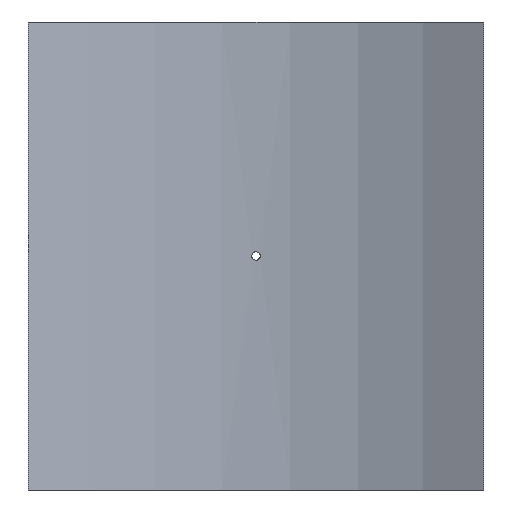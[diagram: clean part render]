
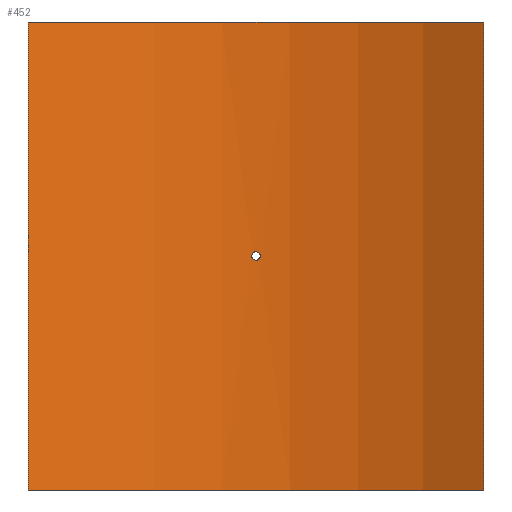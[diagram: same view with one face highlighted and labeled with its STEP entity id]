
A CAD part, front view. The second image highlights one B-rep face of the part: STEP entity #452.
In plain terms, the highlighted cylindrical face has radius 500 mm (diameter 1000 mm), a partial arc.
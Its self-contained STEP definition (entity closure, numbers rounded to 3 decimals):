
#19=B_SPLINE_CURVE_WITH_KNOTS('',3,(#788,#789,#790,#791,#792,#793,#794,
#795,#796,#797,#798,#799,#800,#801,#802,#803,#804,#805,#806,#807,#808,#809,
#810,#811,#812,#813,#814,#815,#816,#817,#818,#819,#820,#821),
 .UNSPECIFIED.,.T.,.F.,(4,2,2,2,2,2,2,2,2,2,2,2,2,2,2,2,4),(0.,0.181,
0.362,0.542,0.723,0.904,
1.085,1.266,1.446,1.627,1.808,
1.989,2.17,2.351,2.531,2.712,
2.893),.UNSPECIFIED.);
#43=LINE('',#1065,#62);
#44=LINE('',#1068,#63);
#62=VECTOR('',#661,10.);
#63=VECTOR('',#664,10.);
#76=CYLINDRICAL_SURFACE('',#530,500.);
#88=FACE_BOUND('',#167,.T.);
#127=FACE_OUTER_BOUND('',#166,.T.);
#166=EDGE_LOOP('',(#405,#406,#407,#408));
#167=EDGE_LOOP('',(#409));
#201=CIRCLE('',#529,500.);
#202=CIRCLE('',#531,500.);
#219=VERTEX_POINT('',#786);
#242=VERTEX_POINT('',#1058);
#243=VERTEX_POINT('',#1060);
#244=VERTEX_POINT('',#1064);
#245=VERTEX_POINT('',#1066);
#267=EDGE_CURVE('',#219,#219,#19,.T.);
#299=EDGE_CURVE('',#242,#243,#201,.T.);
#301=EDGE_CURVE('',#244,#242,#43,.T.);
#302=EDGE_CURVE('',#245,#244,#202,.T.);
#303=EDGE_CURVE('',#245,#243,#44,.T.);
#405=ORIENTED_EDGE('',*,*,#301,.F.);
#406=ORIENTED_EDGE('',*,*,#302,.F.);
#407=ORIENTED_EDGE('',*,*,#303,.T.);
#408=ORIENTED_EDGE('',*,*,#299,.F.);
#409=ORIENTED_EDGE('',*,*,#267,.T.);
#452=ADVANCED_FACE('',(#127,#88),#76,.F.);
#529=AXIS2_PLACEMENT_3D('',#1061,#656,#657);
#530=AXIS2_PLACEMENT_3D('',#1063,#659,#660);
#531=AXIS2_PLACEMENT_3D('',#1067,#662,#663);
#656=DIRECTION('center_axis',(0.,0.,1.));
#657=DIRECTION('ref_axis',(0.516,0.857,0.));
#659=DIRECTION('center_axis',(0.,0.,1.));
#660=DIRECTION('ref_axis',(0.516,0.857,0.));
#661=DIRECTION('',(0.,0.,-1.));
#662=DIRECTION('center_axis',(0.,0.,-1.));
#663=DIRECTION('ref_axis',(0.516,0.857,0.));
#664=DIRECTION('',(0.,0.,-1.));
#786=CARTESIAN_POINT('',(4.8,499.977,0.));
#788=CARTESIAN_POINT('Ctrl Pts',(4.8,499.977,0.));
#789=CARTESIAN_POINT('Ctrl Pts',(4.8,499.977,-0.603));
#790=CARTESIAN_POINT('Ctrl Pts',(4.68,499.978,-1.246));
#791=CARTESIAN_POINT('Ctrl Pts',(4.19,499.983,-2.428));
#792=CARTESIAN_POINT('Ctrl Pts',(3.82,499.986,-2.968));
#793=CARTESIAN_POINT('Ctrl Pts',(2.968,499.991,-3.82));
#794=CARTESIAN_POINT('Ctrl Pts',(2.428,499.994,-4.19));
#795=CARTESIAN_POINT('Ctrl Pts',(1.246,499.999,-4.68));
#796=CARTESIAN_POINT('Ctrl Pts',(0.603,500.,-4.8));
#797=CARTESIAN_POINT('Ctrl Pts',(-0.603,500.,-4.8));
#798=CARTESIAN_POINT('Ctrl Pts',(-1.246,499.999,-4.68));
#799=CARTESIAN_POINT('Ctrl Pts',(-2.428,499.994,-4.19));
#800=CARTESIAN_POINT('Ctrl Pts',(-2.968,499.991,-3.82));
#801=CARTESIAN_POINT('Ctrl Pts',(-3.82,499.986,-2.968));
#802=CARTESIAN_POINT('Ctrl Pts',(-4.19,499.983,-2.428));
#803=CARTESIAN_POINT('Ctrl Pts',(-4.68,499.978,-1.246));
#804=CARTESIAN_POINT('Ctrl Pts',(-4.8,499.977,-0.603));
#805=CARTESIAN_POINT('Ctrl Pts',(-4.8,499.977,0.603));
#806=CARTESIAN_POINT('Ctrl Pts',(-4.68,499.978,1.246));
#807=CARTESIAN_POINT('Ctrl Pts',(-4.19,499.983,2.428));
#808=CARTESIAN_POINT('Ctrl Pts',(-3.82,499.986,2.968));
#809=CARTESIAN_POINT('Ctrl Pts',(-2.968,499.991,3.82));
#810=CARTESIAN_POINT('Ctrl Pts',(-2.428,499.994,4.19));
#811=CARTESIAN_POINT('Ctrl Pts',(-1.246,499.999,4.68));
#812=CARTESIAN_POINT('Ctrl Pts',(-0.603,500.,4.8));
#813=CARTESIAN_POINT('Ctrl Pts',(0.603,500.,4.8));
#814=CARTESIAN_POINT('Ctrl Pts',(1.246,499.999,4.68));
#815=CARTESIAN_POINT('Ctrl Pts',(2.428,499.994,4.19));
#816=CARTESIAN_POINT('Ctrl Pts',(2.968,499.991,3.82));
#817=CARTESIAN_POINT('Ctrl Pts',(3.82,499.986,2.968));
#818=CARTESIAN_POINT('Ctrl Pts',(4.19,499.983,2.428));
#819=CARTESIAN_POINT('Ctrl Pts',(4.68,499.978,1.246));
#820=CARTESIAN_POINT('Ctrl Pts',(4.8,499.977,0.603));
#821=CARTESIAN_POINT('Ctrl Pts',(4.8,499.977,0.));
#1058=CARTESIAN_POINT('',(258.,428.294,-265.));
#1060=CARTESIAN_POINT('',(-258.,428.294,-265.));
#1061=CARTESIAN_POINT('Origin',(0.,0.,
-265.));
#1063=CARTESIAN_POINT('Origin',(0.,0.,
0.));
#1064=CARTESIAN_POINT('',(258.,428.294,265.));
#1065=CARTESIAN_POINT('',(258.,428.294,0.));
#1066=CARTESIAN_POINT('',(-258.,428.294,265.));
#1067=CARTESIAN_POINT('Origin',(0.,0.,
265.));
#1068=CARTESIAN_POINT('',(-258.,428.294,0.));
